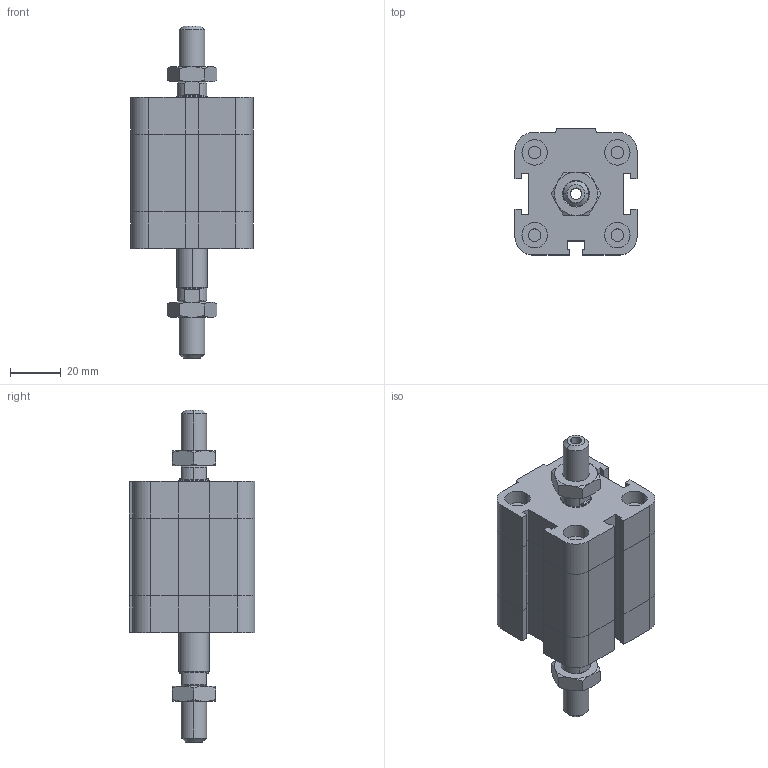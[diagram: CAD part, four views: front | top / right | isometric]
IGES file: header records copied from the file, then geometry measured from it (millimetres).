
Global section: file name: No Iges File Name specified; native system: Autodesk Inventor 2009; preprocessor: AutoDesk Inventor Iges Exporter R2009; author: maffial1; date: 20090420.142505; units: millimetre
Bounding box: 48 x 49.5 x 130.5 mm (x, y, z)
Volume: 124795.8 mm3; surface area: 31813.9 mm2
Topology: 4 solids, 4 shells, 262 faces, 580 edges, 346 vertices
Faces by surface type: plane 129, bspline 53, cone 38, cylinder 22, revolution 20
